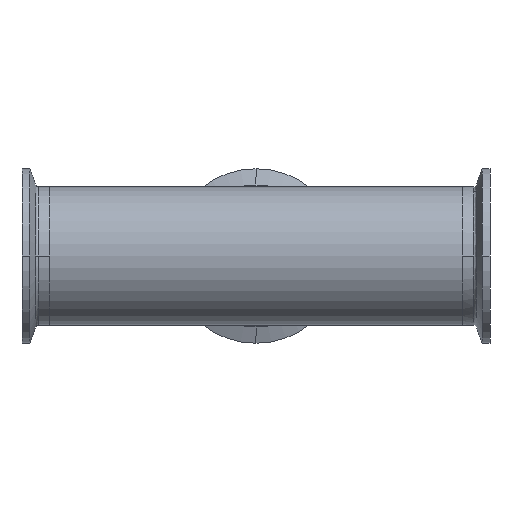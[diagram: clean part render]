
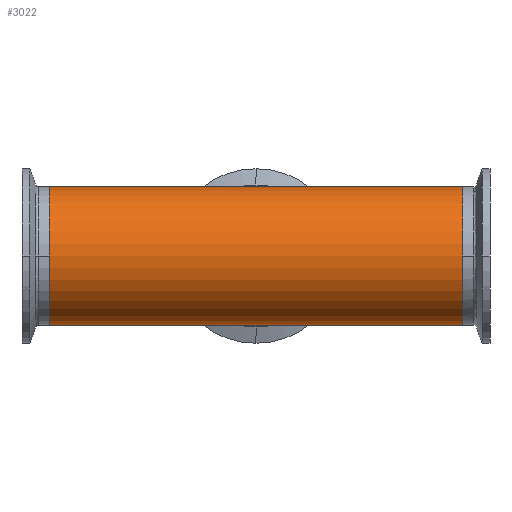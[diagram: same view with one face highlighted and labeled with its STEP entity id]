
A CAD part, front view. The second image highlights one B-rep face of the part: STEP entity #3022.
In plain terms, the highlighted cylindrical face has radius 25.4 mm (diameter 50.8 mm), a partial arc.
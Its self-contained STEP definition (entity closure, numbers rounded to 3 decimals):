
#77 = CARTESIAN_POINT ( 'NONE',  ( 147.542, 0., 25.4 ) ) ;
#124 = CARTESIAN_POINT ( 'NONE',  ( 75.7, 0., -25.4 ) ) ;
#157 = EDGE_CURVE ( 'NONE', #4774, #484, #2616, .T. ) ;
#192 = ORIENTED_EDGE ( 'NONE', *, *, #5319, .T. ) ;
#409 = LINE ( 'NONE', #3689, #570 ) ;
#484 = VERTEX_POINT ( 'NONE', #4515 ) ;
#570 = VECTOR ( 'NONE', #3772, 1000. ) ;
#610 = DIRECTION ( 'NONE',  ( -1., 0., 0. ) ) ;
#714 = VERTEX_POINT ( 'NONE', #3359 ) ;
#871 = ORIENTED_EDGE ( 'NONE', *, *, #1213, .F. ) ;
#980 = EDGE_LOOP ( 'NONE', ( #871, #2417, #4353, #192, #2711, #5925 ) ) ;
#1080 = DIRECTION ( 'NONE',  ( 0., 0., 1. ) ) ;
#1213 = EDGE_CURVE ( 'NONE', #3016, #5936, #4323, .T. ) ;
#1249 = DIRECTION ( 'NONE',  ( -1., 0., 0. ) ) ;
#1375 = EDGE_CURVE ( 'NONE', #3105, #714, #2916, .T. ) ;
#1557 = CARTESIAN_POINT ( 'NONE',  ( 147.542, 0., 0. ) ) ;
#2050 = CARTESIAN_POINT ( 'NONE',  ( -75.7, 0., 25.4 ) ) ;
#2112 = CIRCLE ( 'NONE', #2194, 25.4 ) ;
#2165 = CARTESIAN_POINT ( 'NONE',  ( 75.7, 0., 0. ) ) ;
#2194 = AXIS2_PLACEMENT_3D ( 'NONE', #2165, #5433, #2637 ) ;
#2417 = ORIENTED_EDGE ( 'NONE', *, *, #3476, .T. ) ;
#2484 = DIRECTION ( 'NONE',  ( -1., 0., 0. ) ) ;
#2550 = CARTESIAN_POINT ( 'NONE',  ( -75.7, 0., 0. ) ) ;
#2607 = DIRECTION ( 'NONE',  ( 0., 0., 1. ) ) ;
#2616 = LINE ( 'NONE', #77, #3904 ) ;
#2637 = DIRECTION ( 'NONE',  ( 0., 0., 1. ) ) ;
#2678 = DIRECTION ( 'NONE',  ( 1., 0., 0. ) ) ;
#2711 = ORIENTED_EDGE ( 'NONE', *, *, #1375, .T. ) ;
#2916 = CIRCLE ( 'NONE', #4191, 25.4 ) ;
#3016 = VERTEX_POINT ( 'NONE', #124 ) ;
#3022 = ADVANCED_FACE ( 'NONE', ( #5344 ), #3979, .T. ) ;
#3105 = VERTEX_POINT ( 'NONE', #2050 ) ;
#3206 = VECTOR ( 'NONE', #4869, 1000. ) ;
#3359 = CARTESIAN_POINT ( 'NONE',  ( -75.7, 0., -25.4 ) ) ;
#3476 = EDGE_CURVE ( 'NONE', #3016, #4774, #2112, .T. ) ;
#3627 = CARTESIAN_POINT ( 'NONE',  ( 0., 0., -25.4 ) ) ;
#3689 = CARTESIAN_POINT ( 'NONE',  ( 147.542, 0., -25.4 ) ) ;
#3729 = EDGE_CURVE ( 'NONE', #5936, #714, #409, .T. ) ;
#3772 = DIRECTION ( 'NONE',  ( -1., 0., 0. ) ) ;
#3904 = VECTOR ( 'NONE', #610, 1000. ) ;
#3979 = CYLINDRICAL_SURFACE ( 'NONE', #4703, 25.4 ) ;
#4027 = CARTESIAN_POINT ( 'NONE',  ( 75.7, 0., 25.4 ) ) ;
#4191 = AXIS2_PLACEMENT_3D ( 'NONE', #2550, #2678, #2607 ) ;
#4323 = LINE ( 'NONE', #4840, #5390 ) ;
#4353 = ORIENTED_EDGE ( 'NONE', *, *, #157, .T. ) ;
#4392 = CARTESIAN_POINT ( 'NONE',  ( 147.542, 0., 25.4 ) ) ;
#4515 = CARTESIAN_POINT ( 'NONE',  ( 0., 0., 25.4 ) ) ;
#4610 = LINE ( 'NONE', #4392, #3206 ) ;
#4703 = AXIS2_PLACEMENT_3D ( 'NONE', #1557, #2484, #1080 ) ;
#4774 = VERTEX_POINT ( 'NONE', #4027 ) ;
#4840 = CARTESIAN_POINT ( 'NONE',  ( 147.542, 0., -25.4 ) ) ;
#4869 = DIRECTION ( 'NONE',  ( -1., 0., 0. ) ) ;
#5319 = EDGE_CURVE ( 'NONE', #484, #3105, #4610, .T. ) ;
#5344 = FACE_OUTER_BOUND ( 'NONE', #980, .T. ) ;
#5390 = VECTOR ( 'NONE', #1249, 1000. ) ;
#5433 = DIRECTION ( 'NONE',  ( -1., 0., 0. ) ) ;
#5925 = ORIENTED_EDGE ( 'NONE', *, *, #3729, .F. ) ;
#5936 = VERTEX_POINT ( 'NONE', #3627 ) ;
